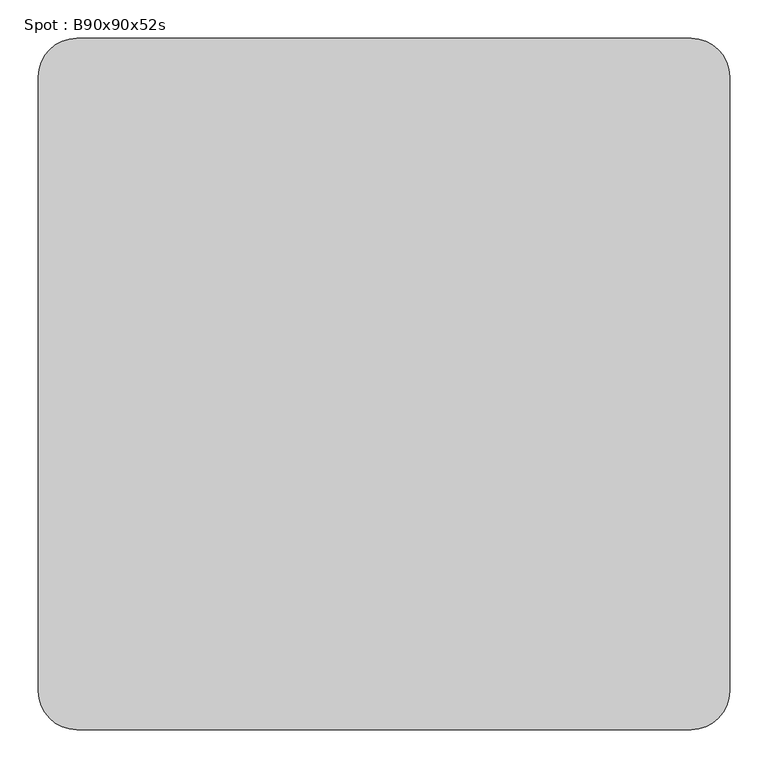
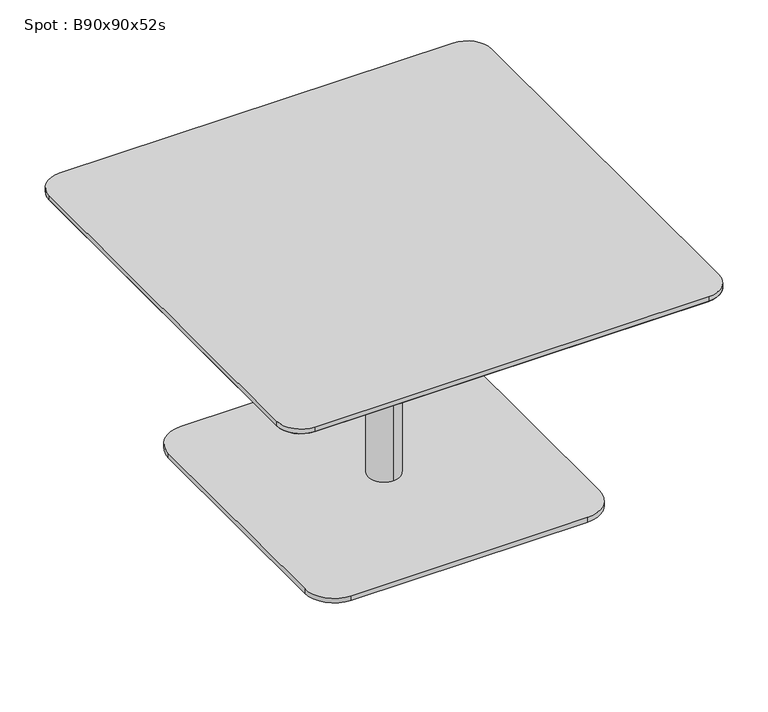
"""IFC4 building model written with IfcOpenShell, lengths in millimetres: furniture geometry, Spot : B90x90x52s."""

from ifc_helpers import new_model, si_unit, point, frame, frame_2d, origin, origin_with_axes, place, context, project, spatial, polyline, circle_curve, trimmed, segment, composite_curve, outline, extrude, source, transform, mapped, element, save
from ifc_brep_helpers import plane_surface, cylinder_surface, revolved_surface, advanced_brep


def spot_b90x90x52s_b3a2c666(model_context):
    return source(origin(), model_context, "Body", "SolidModel", [
        advanced_brep(
        [(-400.0, -400.0, 498.0), (-400.0, 400.0, 498.0), (400.0, 400.0, 498.0), (400.0, -400.0, 498.0), (-450.0, -400.0, 510.0), (-400.0, -450.0, 510.0), (400.0, -450.0, 510.0), (450.0, -400.0, 510.0), (450.0, 400.0, 510.0), (400.0, 450.0, 510.0), (-400.0, 450.0, 510.0), (-450.0, 400.0, 510.0)],
        [
            (0, 1),
            (1, 2),
            (2, 3),
            (3, 0),
            (4, 5, circle_curve(frame((-400.0, -400.0, 510.0), z_axis=(0.0, 0.0, 1.0), x_axis=(0.0, -1.0, 0.0)), 50.0)),
            (5, 6),
            (6, 7, circle_curve(frame((400.0, -400.0, 510.0), z_axis=(0.0, 0.0, 1.0), x_axis=(1.0, 0.0, 0.0)), 50.0)),
            (7, 8),
            (8, 9, circle_curve(frame((400.0, 400.0, 510.0), z_axis=(0.0, 0.0, 1.0), x_axis=(0.0, 1.0, 0.0)), 50.0)),
            (9, 10),
            (10, 11, circle_curve(frame((-400.0, 400.0, 510.0), z_axis=(0.0, 0.0, 1.0), x_axis=(-1.0, 0.0, 0.0)), 50.0)),
            (11, 4),
            (4, 0),
            (0, 5),
            (3, 6),
            (3, 7),
            (2, 8),
            (2, 9),
            (1, 10),
            (1, 11),
        ],
        [
            plane_surface(frame((0.0, 0.0, 498.0), z_axis=(0.0, 0.0, -1.0), x_axis=(-1.0, 0.0, 0.0))),
            plane_surface(frame((0.0, 0.0, 510.0), z_axis=(0.0, 0.0, 1.0), x_axis=(-1.0, 0.0, 0.0))),
            revolved_surface(polyline([(-400.0, -400.0, 498.0), (-400.0, -450.0, 510.0)]), (-400.0, -400.0, 498.0), (0.0, 0.0, 1.0)),
            plane_surface(frame((0.0, -450.0, 510.0), z_axis=(0.0, -0.23337295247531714, -0.9723873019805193), x_axis=(-1.0, 0.0, 0.0))),
            revolved_surface(polyline([(400.0, -400.0, 498.0), (450.0, -400.0, 510.0)]), (400.0, -400.0, 498.0), (0.0, 0.0, 1.0)),
            plane_surface(frame((450.0, 0.0, 510.0), z_axis=(0.23337295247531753, 0.0, -0.9723873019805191), x_axis=(0.0, -1.0, 0.0))),
            revolved_surface(polyline([(400.0, 400.0, 498.0), (400.0, 450.0, 510.0)]), (400.0, 400.0, 498.0), (0.0, 0.0, 1.0)),
            plane_surface(frame((0.0, 450.0, 510.0), z_axis=(0.0, 0.23337295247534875, -0.9723873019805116), x_axis=(1.0, 0.0, 0.0))),
            revolved_surface(polyline([(-400.0, 400.0, 498.0), (-450.0, 400.0, 510.0)]), (-400.0, 400.0, 498.0), (0.0, 0.0, 1.0)),
            plane_surface(frame((-450.0, 0.0, 510.0), z_axis=(-0.2333729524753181, 0.0, -0.9723873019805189), x_axis=(0.0, 1.0, 0.0))),
        ],
        [
            (0, [[1, 2, 3, 4]]),
            (1, [[5, 6, 7, 8, 9, 10, 11, 12]]),
            (2, [[-5, 13, 14]]),
            (3, [[-6, -14, -4, 15]]),
            (4, [[-7, -15, 16]]),
            (5, [[-8, -16, -3, 17]]),
            (6, [[-9, -17, 18]]),
            (7, [[-10, -18, -2, 19]]),
            (8, [[-11, -19, 20]]),
            (9, [[-12, -20, -1, -13]]),
        ],
    ),
        extrude(outline(composite_curve([segment(trimmed(circle_curve(frame_2d((400.0, 400.0)), 50.0), [point((400.0, 450.0))], [point((450.0, 400.0))], False, "CARTESIAN"), True, "CONTINUOUS"), segment(polyline([(450.0, 400.0), (450.0, -400.0)]), True, "CONTINUOUS"), segment(trimmed(circle_curve(frame_2d((400.0, -400.0)), 50.0), [point((450.0, -400.0))], [point((400.0, -450.0))], False, "CARTESIAN"), True, "CONTINUOUS"), segment(polyline([(400.0, -450.0), (-400.0, -450.0)]), True, "CONTINUOUS"), segment(trimmed(circle_curve(frame_2d((-400.0, -400.0)), 50.0), [point((-400.0, -450.0))], [point((-450.0, -400.0))], False, "CARTESIAN"), True, "CONTINUOUS"), segment(polyline([(-450.0, -400.0), (-450.0, 400.0)]), True, "CONTINUOUS"), segment(trimmed(circle_curve(frame_2d((-400.0, 400.0)), 50.0), [point((-450.0, 400.0))], [point((-400.0, 450.0))], False, "CARTESIAN"), True, "CONTINUOUS"), segment(polyline([(-400.0, 450.0), (400.0, 450.0)]), True, "CONTINUOUS")], self_intersect=False)), frame((0.0, 0.0, 510.0), z_axis=(0.0, 0.0, 1.0), x_axis=(1.0, 0.0, 0.0)), (0.0, 0.0, 1.0), 10.0),
        extrude(outline(composite_curve([segment(trimmed(circle_curve(frame_2d((240.0, 240.0)), 60.0), [point((240.0, 300.0))], [point((300.0, 240.0))], False, "CARTESIAN"), True, "CONTINUOUS"), segment(polyline([(300.0, 240.0), (300.0, -240.0)]), True, "CONTINUOUS"), segment(trimmed(circle_curve(frame_2d((240.0, -240.0)), 60.0), [point((300.0, -240.0))], [point((240.0, -300.0))], False, "CARTESIAN"), True, "CONTINUOUS"), segment(polyline([(240.0, -300.0), (-240.0, -300.0)]), True, "CONTINUOUS"), segment(trimmed(circle_curve(frame_2d((-240.0, -240.0)), 60.0), [point((-240.0, -300.0))], [point((-300.0, -240.0))], False, "CARTESIAN"), True, "CONTINUOUS"), segment(polyline([(-300.0, -240.0), (-300.0, 240.0)]), True, "CONTINUOUS"), segment(trimmed(circle_curve(frame_2d((-240.0, 240.0)), 60.0), [point((-300.0, 240.0))], [point((-240.0, 300.0))], False, "CARTESIAN"), True, "CONTINUOUS"), segment(polyline([(-240.0, 300.0), (240.0, 300.0)]), True, "CONTINUOUS")], self_intersect=False)), origin_with_axes(), (0.0, 0.0, 1.0), 10.0),
        advanced_brep(
        [(0.0, 32.0, 10.0), (0.0, -32.0, 10.0), (0.0, -32.0, 467.406916), (0.0, 32.0, 467.406916), (0.0, 0.0, 10.0), (0.0, 150.0, 498.0), (0.0, -150.0, 498.0), (0.0, 0.0, 498.0), (0.0, 150.0, 486.7213673), (0.0, -150.0, 486.7213673)],
        [
            (0, 1, circle_curve(frame((0.0, 0.0, 10.0), z_axis=(0.0, 0.0, 1.0), x_axis=(0.0, -1.0, 0.0)), 32.0)),
            (1, 2),
            (2, 3, circle_curve(frame((0.0, 0.0, 467.406916), z_axis=(0.0, 0.0, -1.0), x_axis=(0.0, -1.0, 0.0)), 32.0)),
            (3, 0),
            (1, 0, circle_curve(frame((0.0, 0.0, 10.0), z_axis=(0.0, 0.0, 1.0), x_axis=(0.0, -1.0, 0.0)), 32.0)),
            (3, 2, circle_curve(frame((0.0, 0.0, 467.406916), z_axis=(0.0, 0.0, -1.0), x_axis=(0.0, -1.0, 0.0)), 32.0)),
            (4, 1),
            (0, 4),
            (5, 6, circle_curve(frame((0.0, 0.0, 498.0), z_axis=(0.0, 0.0, 1.0), x_axis=(0.0, -1.0, 0.0)), 150.0)),
            (6, 7),
            (7, 5),
            (6, 5, circle_curve(frame((0.0, 0.0, 498.0), z_axis=(0.0, 0.0, 1.0), x_axis=(0.0, -1.0, 0.0)), 150.0)),
            (8, 9, circle_curve(frame((0.0, 0.0, 486.7213673), z_axis=(0.0, 0.0, 1.0), x_axis=(0.0, -1.0, 0.0)), 150.0)),
            (9, 6),
            (5, 8),
            (9, 8, circle_curve(frame((0.0, 0.0, 486.7213673), z_axis=(0.0, 0.0, 1.0), x_axis=(0.0, -1.0, 0.0)), 150.0)),
            (2, 9),
            (8, 3),
        ],
        [
            cylinder_surface(frame((0.0, 0.0, 860.0), z_axis=(0.0, 0.0, -1.0), x_axis=(0.0, -1.0, 0.0)), 32.0),
            plane_surface(frame((0.0, 0.0, 10.0), z_axis=(0.0, 0.0, -1.0), x_axis=(0.0, -1.0, 0.0))),
            plane_surface(frame((0.0, 0.0, 498.0), z_axis=(0.0, 0.0, 1.0), x_axis=(0.0, -1.0, 0.0))),
            cylinder_surface(frame((0.0, 0.0, 860.0), z_axis=(0.0, 0.0, -1.0), x_axis=(0.0, -1.0, 0.0)), 150.0),
            revolved_surface(polyline([(0.0, -150.0, 486.7213673), (0.0, -32.0, 467.406916)]), (0.0, 0.0, 860.0), (0.0, 0.0, -1.0)),
        ],
        [
            (0, [[1, 2, 3, 4]]),
            (0, [[5, -4, 6, -2]]),
            (1, [[7, -1, 8]]),
            (1, [[-8, -5, -7]]),
            (2, [[9, 10, 11]]),
            (2, [[12, -11, -10]]),
            (3, [[13, 14, -9, 15]]),
            (3, [[16, -15, -12, -14]]),
            (4, [[-3, 17, -13, 18]]),
            (4, [[-6, -18, -16, -17]]),
        ],
    ),
        extrude(outline(polyline([(0.0, 0.0), (-20.0, 0.0), (-20.0, 20.0), (0.0, 20.0), (0.0, 0.0)])), origin_with_axes(), (0.0, 0.0, 1.0), 10.0),
    ])


if __name__ == "__main__":
    model = new_model("IFC4")
    model_context = context("Model", 3, world=origin())
    ifc_project = project(units=[si_unit("LENGTHUNIT", "METRE", prefix="MILLI")], contexts=[model_context])
    site = spatial("IfcSite", under=ifc_project)
    building = spatial("IfcBuilding", under=site)
    placement = place(None, origin())
    spot_b90x90x52s_shape = spot_b90x90x52s_b3a2c666(model_context)
    element("IfcFurniture", 1, ObjectType="Spot : B90x90x52s", at=placement, inside=building, context=model_context, shape_type="MappedRepresentation", body=[
        mapped(spot_b90x90x52s_shape, transform((0.0, 0.0, 0.0), x_axis=(1.0, 0.0, 0.0), y_axis=(0.0, 1.0, 0.0), z_axis=(0.0, 0.0, 1.0))),
    ])
    save(model, "model.ifc")
